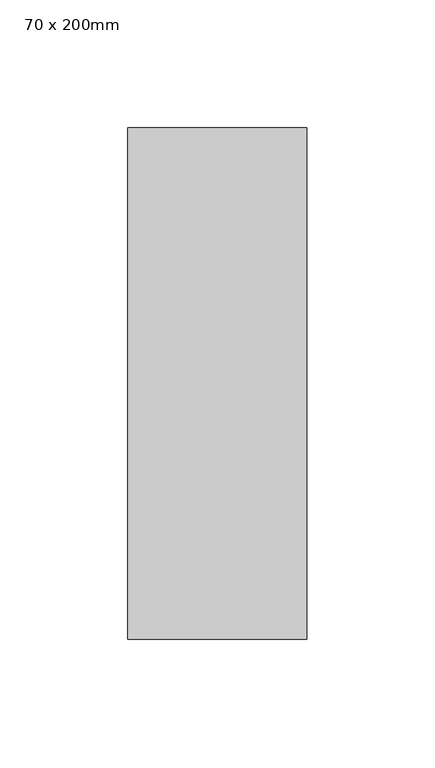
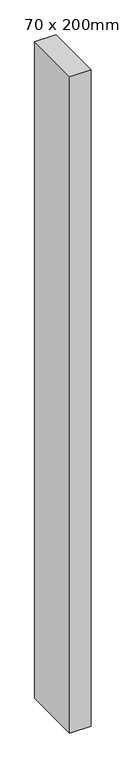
"""IFC4 building model written with IfcOpenShell, lengths in millimetres: member geometry, 矩形竖梃 : 70 x 200mm."""

from ifc_helpers import new_model, si_unit, frame, origin, place, context, project, spatial, polyline, outline, extrude, source, transform, mapped, element, save


def member_70_x_200mm_08fd97f2(model_context):
    return source(origin(), model_context, "Body", "SweptSolid", [
        extrude(outline(polyline([(35.0, 100.0), (35.0, -100.0), (-35.0, -100.0), (-35.0, 100.0), (35.0, 100.0)])), frame((0.0, 0.0, -2290.0), z_axis=(0.0, 0.0, 1.0), x_axis=(1.0, 0.0, 0.0)), (0.0, 0.0, 1.0), 2290.0),
    ])


if __name__ == "__main__":
    model = new_model("IFC4")
    model_context = context("Model", 3, world=origin())
    ifc_project = project(units=[si_unit("LENGTHUNIT", "METRE", prefix="MILLI")], contexts=[model_context])
    site = spatial("IfcSite", under=ifc_project)
    building = spatial("IfcBuilding", under=site)
    placement = place(None, origin())
    member_70_x_200mm_shape = member_70_x_200mm_08fd97f2(model_context)
    element("IfcMember", 1, ObjectType="矩形竖梃 : 70 x 200mm", at=placement, inside=building, context=model_context, shape_type="MappedRepresentation", body=[
        mapped(member_70_x_200mm_shape, transform((0.0, 0.0, 0.0), x_axis=(1.0, 0.0, 0.0), y_axis=(0.0, 1.0, 0.0), z_axis=(0.0, 0.0, 1.0))),
    ])
    save(model, "model.ifc")
